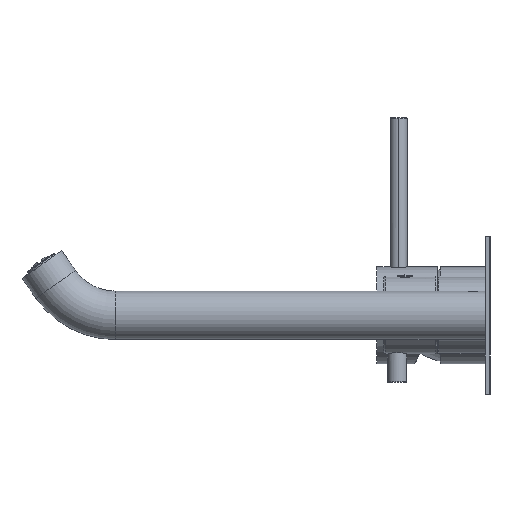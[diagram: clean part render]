
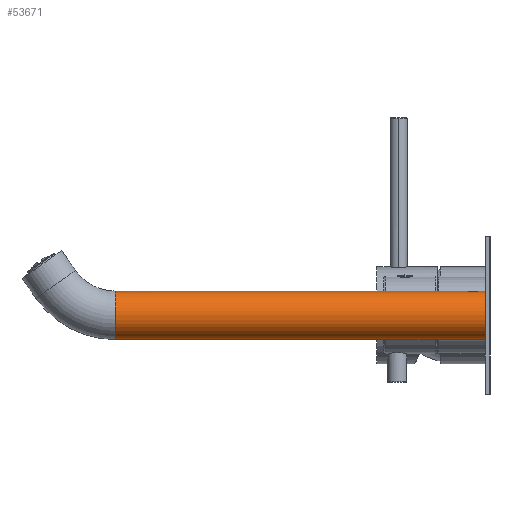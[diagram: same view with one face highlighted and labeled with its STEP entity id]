
A CAD part, left-side view. The second image highlights one B-rep face of the part: STEP entity #53671.
In plain terms, the highlighted cylindrical face has radius 10 mm (diameter 20 mm), a partial arc.
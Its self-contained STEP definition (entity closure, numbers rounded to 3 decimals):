
#13814=CARTESIAN_POINT('',(-220.,178.53,0.));
#13815=DIRECTION('',(0.,1.,0.));
#13816=DIRECTION('',(0.,0.,-1.));
#13817=AXIS2_PLACEMENT_3D('',#13814,#13815,#13816);
#13824=CARTESIAN_POINT('',(-220.,25.9,0.));
#13825=DIRECTION('',(0.,1.,0.));
#13826=DIRECTION('',(0.,0.,-1.));
#13827=AXIS2_PLACEMENT_3D('',#13824,#13825,#13826);
#13829=DIRECTION('',(0.,1.,0.));
#13830=VECTOR('',#13829,152.63);
#13831=CARTESIAN_POINT('',(-220.,25.9,-10.));
#13832=LINE('',#13831,#13830);
#13833=CARTESIAN_POINT('',(-220.,28.8,10.));
#13834=CARTESIAN_POINT('',(-220.043,28.8,10.));
#13835=CARTESIAN_POINT('',(-220.128,28.803,
9.999));
#13836=CARTESIAN_POINT('',(-220.256,28.814,
9.997));
#13837=CARTESIAN_POINT('',(-220.383,28.834,
9.993));
#13838=CARTESIAN_POINT('',(-220.509,28.861,
9.987));
#13839=CARTESIAN_POINT('',(-220.633,28.896,
9.98));
#13840=CARTESIAN_POINT('',(-220.755,28.939,
9.972));
#13841=CARTESIAN_POINT('',(-220.874,28.989,
9.962));
#13842=CARTESIAN_POINT('',(-220.99,29.047,
9.951));
#13843=CARTESIAN_POINT('',(-221.103,29.111,
9.939));
#13844=CARTESIAN_POINT('',(-221.212,29.183,
9.927));
#13845=CARTESIAN_POINT('',(-221.316,29.261,
9.913));
#13846=CARTESIAN_POINT('',(-221.415,29.346,
9.9));
#13847=CARTESIAN_POINT('',(-221.509,29.437,
9.886));
#13848=CARTESIAN_POINT('',(-221.597,29.534,
9.872));
#13849=CARTESIAN_POINT('',(-221.678,29.636,
9.858));
#13850=CARTESIAN_POINT('',(-221.754,29.742,
9.845));
#13851=CARTESIAN_POINT('',(-221.822,29.853,
9.833));
#13852=CARTESIAN_POINT('',(-221.883,29.967,
9.821));
#13853=CARTESIAN_POINT('',(-221.937,30.085,
9.811));
#13854=CARTESIAN_POINT('',(-221.983,30.206,
9.801));
#13855=CARTESIAN_POINT('',(-222.022,30.329,
9.793));
#13856=CARTESIAN_POINT('',(-222.053,30.454,
9.787));
#13857=CARTESIAN_POINT('',(-222.077,30.58,
9.782));
#13858=CARTESIAN_POINT('',(-222.092,30.707,
9.779));
#13859=CARTESIAN_POINT('',(-222.1,30.835,
9.777));
#13860=CARTESIAN_POINT('',(-222.1,30.963,
9.777));
#13861=CARTESIAN_POINT('',(-222.093,31.092,
9.779));
#13862=CARTESIAN_POINT('',(-222.077,31.219,
9.782));
#13863=CARTESIAN_POINT('',(-222.054,31.345,
9.787));
#13864=CARTESIAN_POINT('',(-222.022,31.47,
9.793));
#13865=CARTESIAN_POINT('',(-221.984,31.593,
9.801));
#13866=CARTESIAN_POINT('',(-221.937,31.714,
9.811));
#13867=CARTESIAN_POINT('',(-221.883,31.832,
9.821));
#13868=CARTESIAN_POINT('',(-221.822,31.946,
9.833));
#13869=CARTESIAN_POINT('',(-221.754,32.057,
9.845));
#13870=CARTESIAN_POINT('',(-221.679,32.164,
9.858));
#13871=CARTESIAN_POINT('',(-221.597,32.266,
9.872));
#13872=CARTESIAN_POINT('',(-221.509,32.362,
9.886));
#13873=CARTESIAN_POINT('',(-221.415,32.453,
9.899));
#13874=CARTESIAN_POINT('',(-221.316,32.538,
9.913));
#13875=CARTESIAN_POINT('',(-221.212,32.617,
9.926));
#13876=CARTESIAN_POINT('',(-221.103,32.688,
9.939));
#13877=CARTESIAN_POINT('',(-220.99,32.753,
9.951));
#13878=CARTESIAN_POINT('',(-220.874,32.811,
9.962));
#13879=CARTESIAN_POINT('',(-220.755,32.861,
9.972));
#13880=CARTESIAN_POINT('',(-220.633,32.904,
9.98));
#13881=CARTESIAN_POINT('',(-220.509,32.939,
9.987));
#13882=CARTESIAN_POINT('',(-220.383,32.966,
9.993));
#13883=CARTESIAN_POINT('',(-220.256,32.986,
9.997));
#13884=CARTESIAN_POINT('',(-220.128,32.997,
9.999));
#13885=CARTESIAN_POINT('',(-220.043,33.,10.));
#13886=CARTESIAN_POINT('',(-220.,33.,10.));
#13941=DIRECTION('',(0.,1.,0.));
#13942=VECTOR('',#13941,2.9);
#13943=CARTESIAN_POINT('',(-220.,25.9,10.));
#13944=LINE('',#13943,#13942);
#14000=DIRECTION('',(0.,1.,0.));
#14001=VECTOR('',#14000,145.53);
#14002=CARTESIAN_POINT('',(-220.,33.,10.));
#14003=LINE('',#14002,#14001);
#48766=CARTESIAN_POINT('',(-220.,178.53,-10.));
#48767=CARTESIAN_POINT('',(-220.,178.53,10.));
#48768=VERTEX_POINT('',#48766);
#48769=VERTEX_POINT('',#48767);
#48806=VERTEX_POINT('',#13833);
#48807=VERTEX_POINT('',#13886);
#48980=CARTESIAN_POINT('',(-220.,25.9,-10.));
#48981=CARTESIAN_POINT('',(-220.,25.9,10.));
#48982=VERTEX_POINT('',#48980);
#48983=VERTEX_POINT('',#48981);
#53653=CARTESIAN_POINT('',(-220.,25.9,0.));
#53654=DIRECTION('',(0.,1.,0.));
#53655=DIRECTION('',(0.,0.,-1.));
#53656=AXIS2_PLACEMENT_3D('',#53653,#53654,#53655);
#53657=CYLINDRICAL_SURFACE('',#53656,10.);
#53659=ORIENTED_EDGE('',*,*,#53658,.F.);
#53661=ORIENTED_EDGE('',*,*,#53660,.T.);
#53662=ORIENTED_EDGE('',*,*,#53643,.T.);
#53664=ORIENTED_EDGE('',*,*,#53663,.F.);
#53666=ORIENTED_EDGE('',*,*,#53665,.F.);
#53668=ORIENTED_EDGE('',*,*,#53667,.F.);
#53669=EDGE_LOOP('',(#53659,#53661,#53662,#53664,#53666,#53668));
#53670=FACE_OUTER_BOUND('',#53669,.F.);
#53671=ADVANCED_FACE('',(#53670),#53657,.T.);
#13818=CIRCLE('',#13817,10.);
#13828=CIRCLE('',#13827,10.);
#13887=B_SPLINE_CURVE_WITH_KNOTS('',3,(#13833,#13834,#13835,#13836,#13837,
#13838,#13839,#13840,#13841,#13842,#13843,#13844,#13845,#13846,#13847,#13848,
#13849,#13850,#13851,#13852,#13853,#13854,#13855,#13856,#13857,#13858,#13859,
#13860,#13861,#13862,#13863,#13864,#13865,#13866,#13867,#13868,#13869,#13870,
#13871,#13872,#13873,#13874,#13875,#13876,#13877,#13878,#13879,#13880,#13881,
#13882,#13883,#13884,#13885,#13886),.UNSPECIFIED.,.F.,.F.,(4,1,1,1,1,1,1,1,1,1,
1,1,1,1,1,1,1,1,1,1,1,1,1,1,1,1,1,1,1,1,1,1,1,1,1,1,1,1,1,1,1,1,1,1,1,1,1,1,1,1,
1,4),(0.,0.02,0.039,0.059,
0.078,0.098,0.118,0.137,
0.157,0.176,0.196,0.216,
0.235,0.255,0.275,0.294,
0.314,0.333,0.353,0.373,
0.392,0.412,0.431,0.451,
0.471,0.49,0.51,0.529,
0.549,0.569,0.588,0.608,
0.627,0.647,0.667,0.686,
0.706,0.725,0.745,0.765,
0.784,0.804,0.824,0.843,
0.863,0.882,0.902,0.922,
0.941,0.961,0.98,1.),.UNSPECIFIED.);
#53643=EDGE_CURVE('',#48768,#48769,#13818,.T.);
#53658=EDGE_CURVE('',#48982,#48983,#13828,.T.);
#53660=EDGE_CURVE('',#48982,#48768,#13832,.T.);
#53663=EDGE_CURVE('',#48807,#48769,#14003,.T.);
#53665=EDGE_CURVE('',#48806,#48807,#13887,.T.);
#53667=EDGE_CURVE('',#48983,#48806,#13944,.T.);
